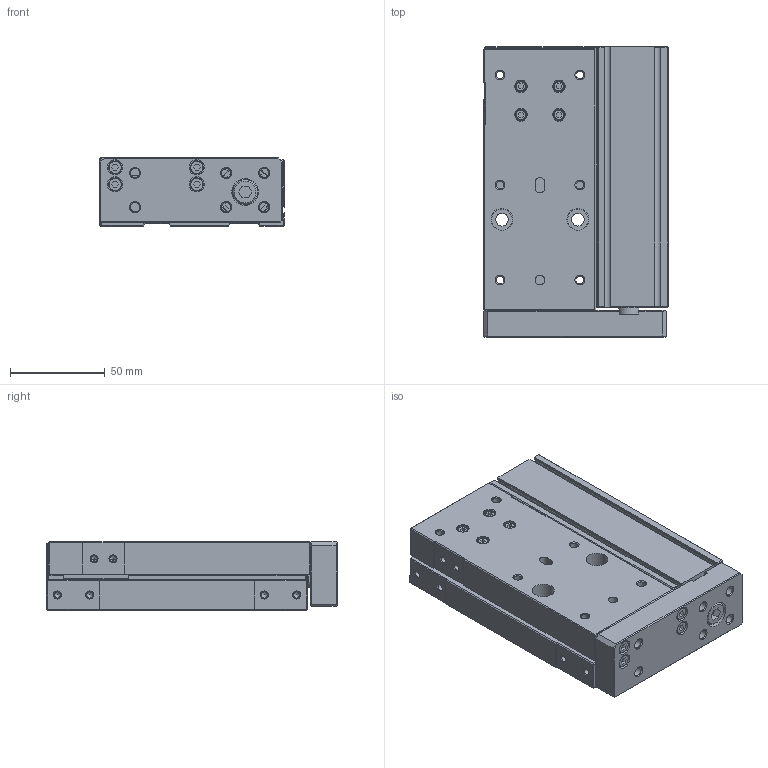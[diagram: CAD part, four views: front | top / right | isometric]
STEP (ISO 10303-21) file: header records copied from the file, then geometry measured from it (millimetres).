
FILE_DESCRIPTION((''),'2;1');
FILE_NAME('I:\3D電子目錄\氣缸\FMR(L)\FMR(L)\FMR25x75.stp','2007-10-15T16:08:46',('Administrator'),(''),'Autodesk Inventor 11','Autodesk Inventor 11','');
FILE_SCHEMA(('AUTOMOTIVE_DESIGN { 1 0 10303 214 1 1 1 1 }'));
Length unit declared in the file: millimetre
Products named in the file (1): FMR25x75
Bounding box: 97 x 152.8 x 36 mm (x, y, z)
Volume: 402170.5 mm3; surface area: 109005.1 mm2
Topology: 14 solids, 14 shells, 538 faces, 1235 edges, 778 vertices
Faces by surface type: plane 332, bspline 109, cylinder 49, cone 48
Full cylindrical faces by diameter (mm): 1.3 x2, 2 x2, 4.2 x1, 5 x2, 5.5 x4, 7 x5, 8 x1, 8.5 x1, 10 x2, 11.5 x2, 12 x3, 13 x1, 14 x1, 16 x1, 21.5 x2, 25 x3, 28 x4, 29.6 x2
Entity records: 14961 total; most frequent: CARTESIAN_POINT 3905, DIRECTION 2163, ORIENTED_EDGE 2020, EDGE_CURVE 1010, EDGE_LOOP 827, AXIS2_PLACEMENT_3D 737, VERTEX_POINT 719, VECTOR 689
